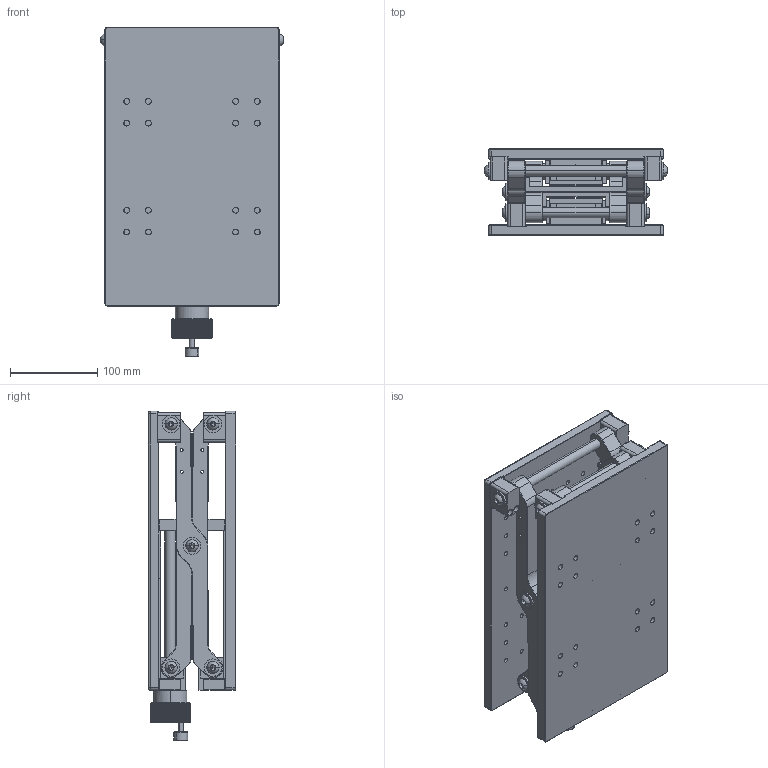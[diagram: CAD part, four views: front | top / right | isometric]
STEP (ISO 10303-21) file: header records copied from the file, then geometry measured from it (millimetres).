
FILE_DESCRIPTION (( 'STEP AP203' ), '1' );
FILE_NAME ('手动升降台：ZT410MS200.STEP', '2021-09-06T07:40:33', ( '' ), ( '' ), 'SwSTEP 2.0', 'SolidWorks 2016', '' );
FILE_SCHEMA (( 'CONFIG_CONTROL_DESIGN' ));
Length unit declared in the file: millimetre
Products named in the file (1): 手动升降台：ZT410MS200
Bounding box: 209.8 x 100 x 378 mm (x, y, z)
Volume: 2540419.1 mm3; surface area: 632813 mm2
Topology: 68 solids, 68 shells, 2286 faces, 6171 edges, 3902 vertices
Faces by surface type: cylinder 975, plane 809, cone 246, torus 154, sphere 102
Entity records: 74476 total; most frequent: CARTESIAN_POINT 17969, DIRECTION 11884, ORIENTED_EDGE 11694, EDGE_CURVE 5847, AXIS2_PLACEMENT_3D 4612, VERTEX_POINT 3738, EDGE_LOOP 2719, LINE 2660
